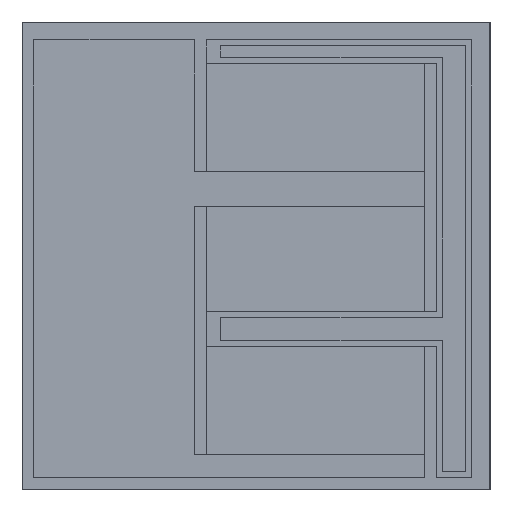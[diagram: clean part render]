
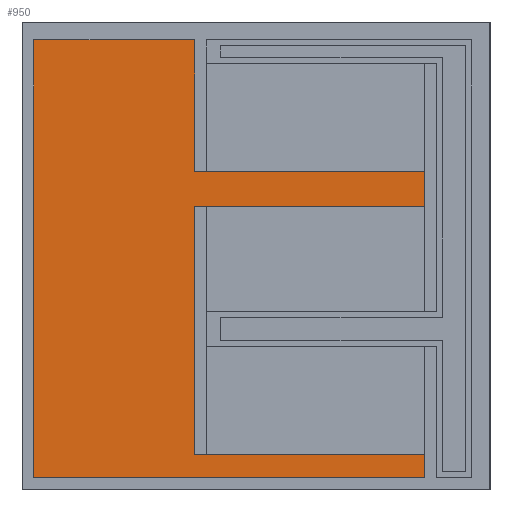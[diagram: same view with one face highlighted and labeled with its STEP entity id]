
A CAD part, top view. The second image highlights one B-rep face of the part: STEP entity #950.
In plain terms, the highlighted planar face has unit normal (0, 0, 1).
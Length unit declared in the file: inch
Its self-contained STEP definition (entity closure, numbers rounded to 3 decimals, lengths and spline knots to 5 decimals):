
#56=FACE_OUTER_BOUND('',#104,.T.);
#104=EDGE_LOOP('',(#790,#791,#792,#793,#794,#795,#796,#797,#798,#799));
#165=LINE('',#1360,#291);
#169=LINE('',#1368,#295);
#175=LINE('',#1380,#301);
#221=LINE('',#1470,#347);
#223=LINE('',#1473,#349);
#225=LINE('',#1476,#351);
#226=LINE('',#1478,#352);
#227=LINE('',#1481,#353);
#229=LINE('',#1485,#355);
#231=LINE('',#1488,#357);
#291=VECTOR('',#1115,0.3937);
#295=VECTOR('',#1121,0.3937);
#301=VECTOR('',#1129,0.3937);
#347=VECTOR('',#1203,0.3937);
#349=VECTOR('',#1207,0.3937);
#351=VECTOR('',#1211,0.3937);
#352=VECTOR('',#1214,0.3937);
#353=VECTOR('',#1217,0.3937);
#355=VECTOR('',#1221,0.3937);
#357=VECTOR('',#1225,0.3937);
#404=VERTEX_POINT('',#1357);
#405=VERTEX_POINT('',#1359);
#407=VERTEX_POINT('',#1365);
#408=VERTEX_POINT('',#1367);
#412=VERTEX_POINT('',#1377);
#413=VERTEX_POINT('',#1379);
#442=VERTEX_POINT('',#1467);
#443=VERTEX_POINT('',#1469);
#444=VERTEX_POINT('',#1480);
#445=VERTEX_POINT('',#1484);
#501=EDGE_CURVE('',#405,#404,#165,.T.);
#505=EDGE_CURVE('',#408,#407,#169,.T.);
#511=EDGE_CURVE('',#413,#412,#175,.T.);
#557=EDGE_CURVE('',#443,#442,#221,.T.);
#559=EDGE_CURVE('',#404,#443,#223,.T.);
#561=EDGE_CURVE('',#407,#405,#225,.T.);
#562=EDGE_CURVE('',#412,#408,#226,.T.);
#563=EDGE_CURVE('',#444,#413,#227,.T.);
#565=EDGE_CURVE('',#445,#444,#229,.T.);
#567=EDGE_CURVE('',#442,#445,#231,.T.);
#790=ORIENTED_EDGE('',*,*,#567,.T.);
#791=ORIENTED_EDGE('',*,*,#565,.T.);
#792=ORIENTED_EDGE('',*,*,#563,.T.);
#793=ORIENTED_EDGE('',*,*,#511,.T.);
#794=ORIENTED_EDGE('',*,*,#562,.T.);
#795=ORIENTED_EDGE('',*,*,#505,.T.);
#796=ORIENTED_EDGE('',*,*,#561,.T.);
#797=ORIENTED_EDGE('',*,*,#501,.T.);
#798=ORIENTED_EDGE('',*,*,#559,.T.);
#799=ORIENTED_EDGE('',*,*,#557,.T.);
#864=PLANE('',#1016);
#950=ADVANCED_FACE('',(#56),#864,.T.);
#1016=AXIS2_PLACEMENT_3D('',#1489,#1226,#1227);
#1115=DIRECTION('',(-1.,0.,0.));
#1121=DIRECTION('',(1.,0.,0.));
#1129=DIRECTION('',(-1.,0.,0.));
#1203=DIRECTION('',(-1.,0.,0.));
#1207=DIRECTION('',(0.,1.,0.));
#1211=DIRECTION('',(0.,1.,0.));
#1214=DIRECTION('',(0.,1.,0.));
#1217=DIRECTION('',(0.,1.,0.));
#1221=DIRECTION('',(1.,0.,0.));
#1225=DIRECTION('',(0.,-1.,0.));
#1226=DIRECTION('center_axis',(0.,0.,1.));
#1227=DIRECTION('ref_axis',(1.,0.,0.));
#1357=CARTESIAN_POINT('',(0.02956,0.0545,0.0002));
#1359=CARTESIAN_POINT('',(0.069,0.0545,0.0002));
#1360=CARTESIAN_POINT('',(0.069,0.0545,0.0002));
#1365=CARTESIAN_POINT('',(0.069,0.0485,0.0002));
#1367=CARTESIAN_POINT('',(0.02956,0.0485,0.0002));
#1368=CARTESIAN_POINT('',(0.02956,0.0485,0.0002));
#1377=CARTESIAN_POINT('',(0.02956,0.006,0.0002));
#1379=CARTESIAN_POINT('',(0.069,0.006,0.0002));
#1380=CARTESIAN_POINT('',(0.069,0.006,0.0002));
#1467=CARTESIAN_POINT('',(0.002,0.077,0.0002));
#1469=CARTESIAN_POINT('',(0.02956,0.077,0.0002));
#1470=CARTESIAN_POINT('',(0.02956,0.077,0.0002));
#1473=CARTESIAN_POINT('',(0.02956,0.0545,0.0002));
#1476=CARTESIAN_POINT('',(0.069,0.0485,0.0002));
#1478=CARTESIAN_POINT('',(0.02956,0.006,0.0002));
#1480=CARTESIAN_POINT('',(0.069,0.002,0.0002));
#1481=CARTESIAN_POINT('',(0.069,0.002,0.0002));
#1484=CARTESIAN_POINT('',(0.002,0.002,0.0002));
#1485=CARTESIAN_POINT('',(0.002,0.002,0.0002));
#1488=CARTESIAN_POINT('',(0.002,0.077,0.0002));
#1489=CARTESIAN_POINT('Origin',(0.03143,0.03439,0.0002));
